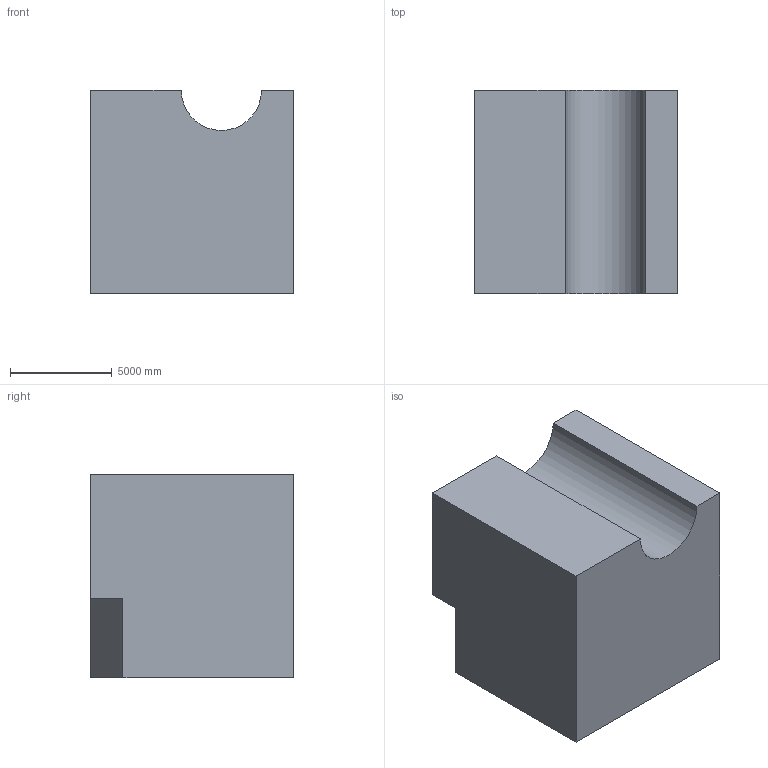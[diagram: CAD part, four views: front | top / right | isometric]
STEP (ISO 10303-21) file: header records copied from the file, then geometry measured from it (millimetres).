
FILE_DESCRIPTION (( 'STEP AP203' ), '1' );
FILE_NAME ('241.STEP', '2022-07-28T14:01:05', ( 'user' ), ( '' ), 'SwSTEP 2.0', 'SolidWorks 2021', '' );
FILE_SCHEMA (( 'CONFIG_CONTROL_DESIGN' ));
Length unit declared in the file: centimetre
Products named in the file (1): 241
Bounding box: 10000 x 10000 x 10000 mm (x, y, z)
Volume: 855316771404.7 mm3; surface area: 704481236.4 mm2
Topology: 1 solids, 1 shells, 15 faces, 36 edges, 24 vertices
Faces by surface type: plane 14, cylinder 1
Entity records: 509 total; most frequent: CARTESIAN_POINT 76, ORIENTED_EDGE 72, DIRECTION 70, EDGE_CURVE 36, VECTOR 34, LINE 34, VERTEX_POINT 24, AXIS2_PLACEMENT_3D 18
